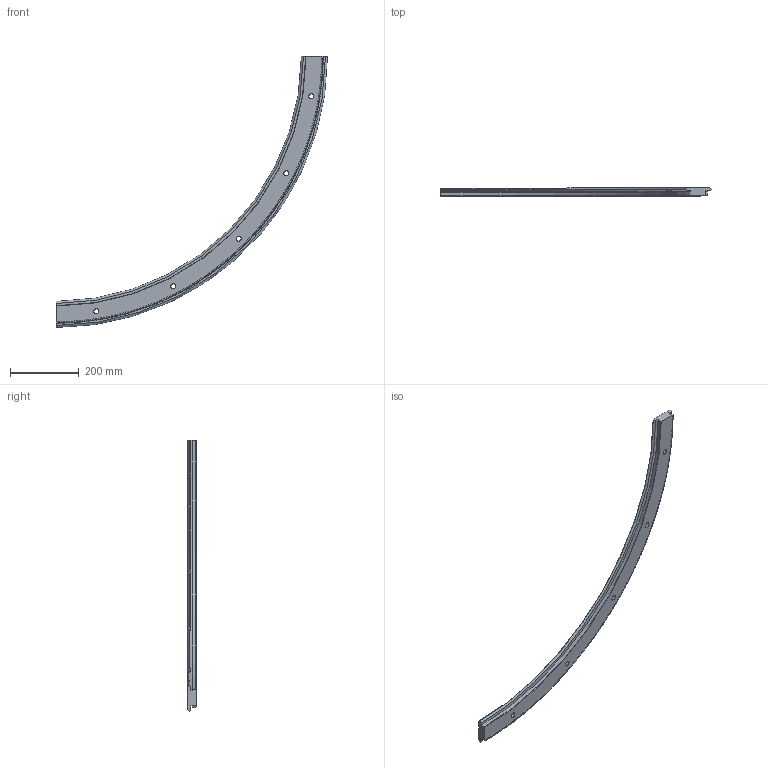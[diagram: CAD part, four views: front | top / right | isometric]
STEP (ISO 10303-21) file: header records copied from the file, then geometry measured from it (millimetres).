
FILE_DESCRIPTION( ( 'STEP AP203' ), '1' );
FILE_NAME( 'p:/temp/worker_22/temp/exporttempdir_400_204_Us5Mh/format_0/R76 1501 R90 P.stp', '2021-07-19T05:45:30', ( 'License CC BY-ND 4.0' ), ( 'CADENAS' ), ' ', 'PARTsolutions', ' ' );
FILE_SCHEMA( ( 'CONFIG_CONTROL_DESIGN' ) );
Length unit declared in the file: millimetre
Products named in the file (1): _R76 1501 R90 P
Bounding box: 786.43 x 24 x 786.43 mm (x, y, z)
Volume: 1556025.3 mm3; surface area: 260375.5 mm2
Topology: 1 solids, 1 shells, 1584 faces, 4210 edges, 2633 vertices
Faces by surface type: plane 1045, cylinder 270, cone 267, torus 2
Full cylindrical faces by diameter (mm): 14 x5, 20 x5
Entity records: 49280 total; most frequent: CARTESIAN_POINT 10007, ORIENTED_EDGE 8390, DIRECTION 8164, EDGE_CURVE 4195, AXIS2_PLACEMENT_3D 2912, VERTEX_POINT 2633, LINE 2340, VECTOR 2340
